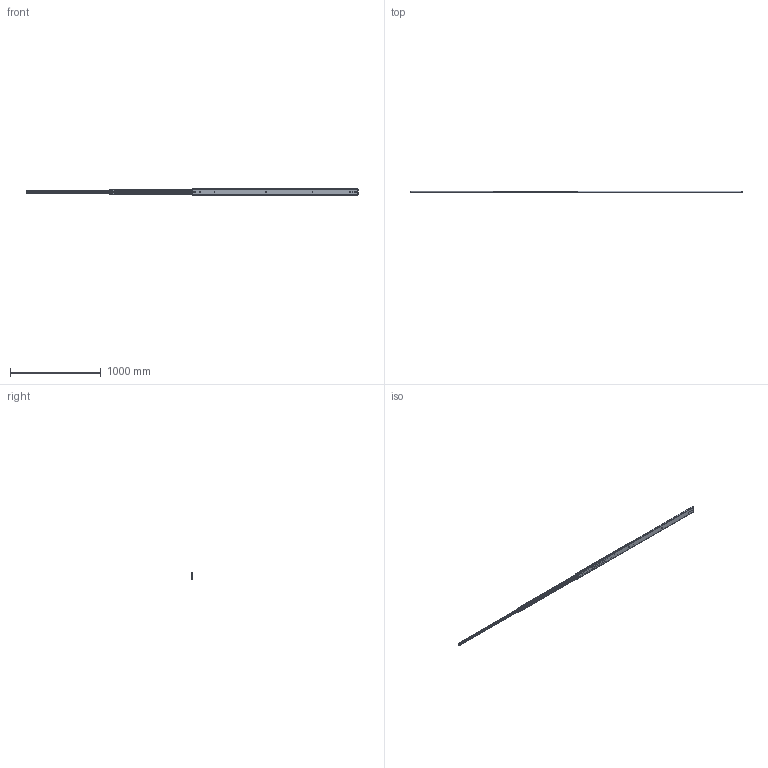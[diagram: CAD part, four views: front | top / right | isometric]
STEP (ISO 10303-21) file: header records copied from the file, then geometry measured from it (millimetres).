
FILE_DESCRIPTION((''),'2;1');
FILE_NAME('DG-76-02-72_ASM','2023-05-15T',('jishu015'),(''),'PRO/ENGINEER BY PARAMETRIC TECHNOLOGY CORPORATION, 2010280','PRO/ENGINEER BY PARAMETRIC TECHNOLOGY CORPORATION, 2010280','');
FILE_SCHEMA(('CONFIG_CONTROL_DESIGN'));
Products named in the file (18): KP-76-04WAIKE3; 1076-WAIKEZIDANJIAO3; WAIK72_ASM; 1076XIAOZHUTIAO1; 163; 1076XIAOZHUTIAO1_ASM; KP-76-04ZHONGGUI3; 76CHANGGUIZHONGGUIJIAO3; 3X6WODIN3; PJ-76-33; 76-XIAOZHUJIA3; GANGZHU-XIAO3; ZHUJIA-XIAO3_ASM; ZHONGGUI3_ASM; KP-76-04NEIGUI3; XIN-TANPIAN; NEIGUI3_ASM; DG-76-02-72_ASM
Assembly tree (122 placements, depth 4):
  DG-76-02-72_ASM
    WAIK72_ASM
      KP-76-04WAIKE3
      1076-WAIKEZIDANJIAO3  x2
    1076XIAOZHUTIAO1_ASM  x2
      1076XIAOZHUTIAO1
      163
    ZHONGGUI3_ASM
      KP-76-04ZHONGGUI3
      76CHANGGUIZHONGGUIJIAO3
      3X6WODIN3
      PJ-76-33
      ZHUJIA-XIAO3_ASM
        76-XIAOZHUJIA3
        GANGZHU-XIAO3  x70
    NEIGUI3_ASM
      KP-76-04NEIGUI3
      XIN-TANPIAN
Bounding box: 3657.6 x 19.5 x 75.3 mm (x, y, z)
Volume: 1201205 mm3; surface area: 1151899.2 mm2
Topology: 152 solids, 152 shells, 2976 faces, 9454 edges, 5915 vertices
Faces by surface type: plane 1607, cylinder 960, sphere 282, extrusion 105, cone 18, bspline 4
Entity records: 87760 total; most frequent: CARTESIAN_POINT 21028, ORIENTED_EDGE 14988, DIRECTION 12797, EDGE_CURVE 7494, VERTEX_POINT 4891, AXIS2_PLACEMENT_3D 4329, VECTOR 4139, LINE 4034
